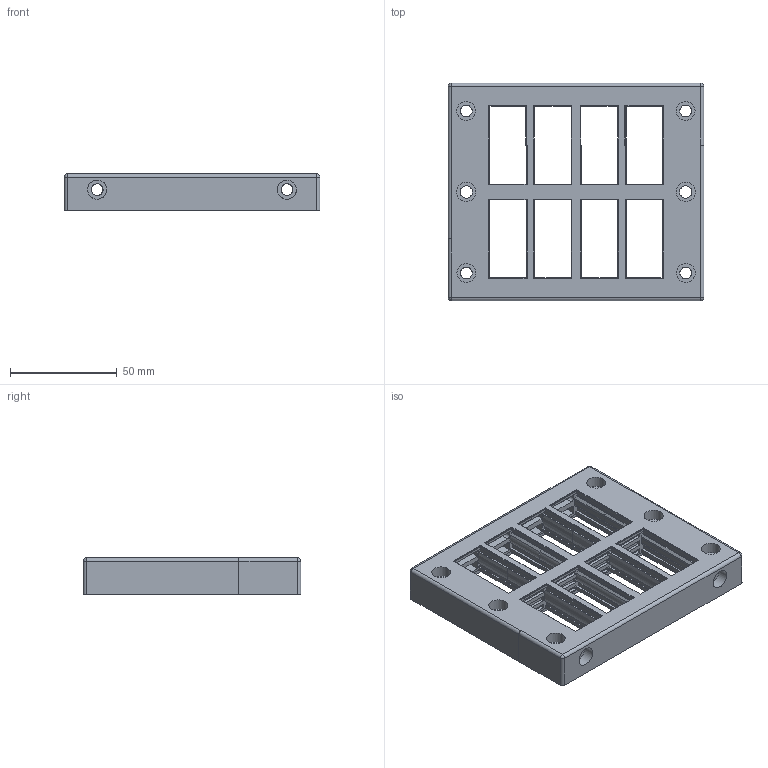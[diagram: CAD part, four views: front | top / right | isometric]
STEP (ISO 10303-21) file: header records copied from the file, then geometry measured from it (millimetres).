
FILE_DESCRIPTION (( 'STEP AP203' ), '1' );
FILE_NAME ('044163 KBL 16-16-MT.STEP', '2023-04-12T10:24:36', ( '' ), ( '' ), 'SwSTEP 2.0', 'SolidWorks 2016', '' );
FILE_SCHEMA (( 'CONFIG_CONTROL_DESIGN' ));
Length unit declared in the file: millimetre
Products named in the file (1): 044163 KBL 16-16-MT
Bounding box: 120.05 x 102 x 17 mm (x, y, z)
Volume: 81085.2 mm3; surface area: 57469.9 mm2
Topology: 1 solids, 11 shells, 1185 faces, 3181 edges, 2064 vertices
Faces by surface type: plane 838, cylinder 270, bspline 46, cone 31
Full cylindrical faces by diameter (mm): 1.8 x5, 1.895 x1, 2 x5, 5.5 x4, 5.55 x4, 5.8 x2, 8.8 x4, 9 x4
Entity records: 40943 total; most frequent: CARTESIAN_POINT 12701, ORIENTED_EDGE 6246, DIRECTION 5028, EDGE_CURVE 3123, LINE 2354, VECTOR 2354, VERTEX_POINT 2047, AXIS2_PLACEMENT_3D 1337
